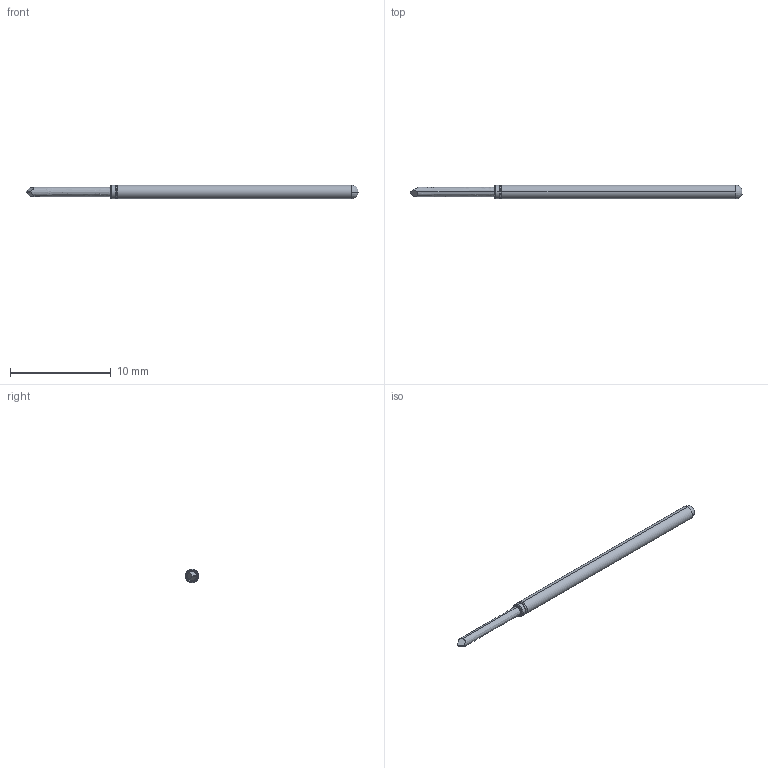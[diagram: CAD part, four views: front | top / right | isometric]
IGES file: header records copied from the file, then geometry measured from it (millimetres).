
Start section: SolidWorks IGES file using analytic representation for surfaces
Global section: file name: Z:\probe solid model mockups\Solidworks models\POGO-25 IGS files\POGO-25T30.IGS; native system: SolidWorks 2006 by SolidWorks Corporation; preprocessor: SolidWorks 2006 by SolidWorks Corporation; author: tsakatani; date: 071214.093337; units: inch
Bounding box: 33.02 x 1.37 x 1.37 mm (x, y, z)
Surface area: 130.6 mm2 (no closed solid volume)
Topology: 0 solids, 0 shells, 21 faces, 160 edges, 160 vertices
Faces by surface type: revolution 12, bspline 9
